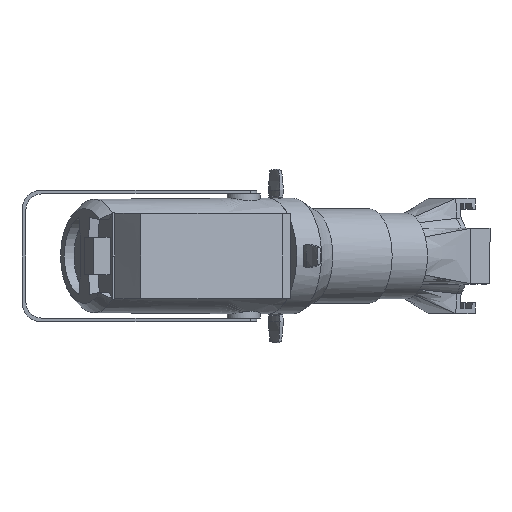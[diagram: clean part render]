
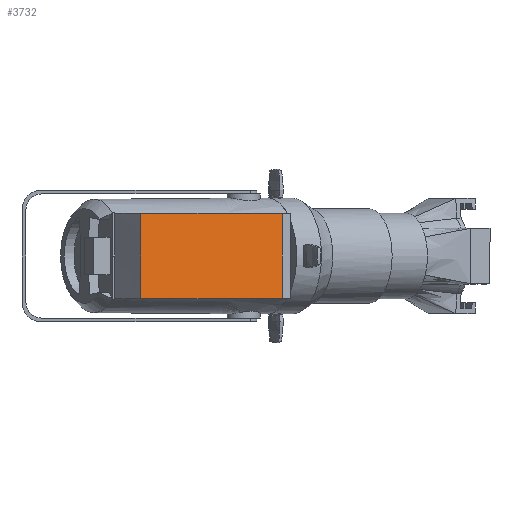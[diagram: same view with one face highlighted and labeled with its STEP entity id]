
A CAD part, front view. The second image highlights one B-rep face of the part: STEP entity #3732.
In plain terms, the highlighted planar face has unit normal (0.485, -0.875, 0) as drawn and (1, -0.018, 0) by its records, which use the part's own axes.
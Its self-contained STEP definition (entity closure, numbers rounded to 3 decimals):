
#172=B_SPLINE_CURVE_WITH_KNOTS('',3,(#14126,#14127,#14128,#14129,#14130,
#14131,#14132,#14133,#14134,#14135,#14136,#14137,#14138,#14139),
 .UNSPECIFIED.,.F.,.F.,(4,2,2,2,2,2,4),(-29.021,-28.885,
-26.698,-22.323,-13.574,-7.741,
-4.509),.UNSPECIFIED.);
#181=B_SPLINE_CURVE_WITH_KNOTS('',3,(#17413,#17414,#17415,#17416,#17417,
#17418,#17419,#17420,#17421,#17422,#17423,#17424,#17425,#17426),
 .UNSPECIFIED.,.F.,.F.,(4,2,2,2,2,2,4),(-29.021,-28.885,
-26.698,-22.323,-13.574,-7.741,
-4.509),.UNSPECIFIED.);
#183=B_SPLINE_CURVE_WITH_KNOTS('',3,(#25789,#25790,#25791,#25792,#25793,
#25794,#25795,#25796,#25797,#25798,#25799,#25800,#25801,#25802,#25803,#25804),
 .UNSPECIFIED.,.F.,.F.,(4,2,2,2,2,2,2,4),(0.,0.769,
4.613,12.305,17.432,28.26,33.675,
34.758),.UNSPECIFIED.);
#184=B_SPLINE_CURVE_WITH_KNOTS('',3,(#26894,#26895,#26896,#26897,#26898,
#26899),.UNSPECIFIED.,.F.,.F.,(4,2,4),(0.,3.44,
12.76),.UNSPECIFIED.);
#373=PLANE('',#4104);
#573=FACE_OUTER_BOUND('',#810,.T.);
#810=EDGE_LOOP('',(#3484,#3485,#3486,#3487));
#1849=VERTEX_POINT('',#14104);
#1850=VERTEX_POINT('',#14125);
#1862=VERTEX_POINT('',#17372);
#1864=VERTEX_POINT('',#17406);
#2376=EDGE_CURVE('',#1849,#1850,#172,.T.);
#2401=EDGE_CURVE('',#1862,#1864,#181,.T.);
#2404=EDGE_CURVE('',#1862,#1849,#183,.F.);
#2405=EDGE_CURVE('',#1864,#1850,#184,.F.);
#3484=ORIENTED_EDGE('',*,*,#2404,.F.);
#3485=ORIENTED_EDGE('',*,*,#2401,.T.);
#3486=ORIENTED_EDGE('',*,*,#2405,.T.);
#3487=ORIENTED_EDGE('',*,*,#2376,.F.);
#3732=ADVANCED_FACE('',(#573),#373,.T.);
#4104=AXIS2_PLACEMENT_3D('',#28673,#5076,#5077);
#5076=DIRECTION('center_axis',(1.,-0.018,0.));
#5077=DIRECTION('ref_axis',(0.,0.,-1.));
#14104=CARTESIAN_POINT('',(116.538,-199.006,63.872));
#14125=CARTESIAN_POINT('',(120.871,46.083,63.802));
#14126=CARTESIAN_POINT('Ctrl Pts',(116.538,-199.006,63.872));
#14127=CARTESIAN_POINT('Ctrl Pts',(116.546,-198.552,63.872));
#14128=CARTESIAN_POINT('Ctrl Pts',(116.554,-198.099,63.871));
#14129=CARTESIAN_POINT('Ctrl Pts',(116.691,-190.355,63.869));
#14130=CARTESIAN_POINT('Ctrl Pts',(116.82,-183.065,63.867));
#14131=CARTESIAN_POINT('Ctrl Pts',(117.207,-161.195,63.861));
#14132=CARTESIAN_POINT('Ctrl Pts',(117.464,-146.615,63.857));
#14133=CARTESIAN_POINT('Ctrl Pts',(118.238,-102.876,63.844));
#14134=CARTESIAN_POINT('Ctrl Pts',(118.753,-73.716,63.836));
#14135=CARTESIAN_POINT('Ctrl Pts',(119.612,-25.116,63.822));
#14136=CARTESIAN_POINT('Ctrl Pts',(119.956,-5.676,63.817));
#14137=CARTESIAN_POINT('Ctrl Pts',(120.49,24.536,63.808));
#14138=CARTESIAN_POINT('Ctrl Pts',(120.681,35.31,63.805));
#14139=CARTESIAN_POINT('Ctrl Pts',(120.871,46.083,63.802));
#17372=CARTESIAN_POINT('',(116.538,-199.006,-63.872));
#17406=CARTESIAN_POINT('',(120.871,46.083,-63.802));
#17413=CARTESIAN_POINT('Ctrl Pts',(116.538,-199.006,-63.872));
#17414=CARTESIAN_POINT('Ctrl Pts',(116.546,-198.552,-63.872));
#17415=CARTESIAN_POINT('Ctrl Pts',(116.554,-198.099,-63.871));
#17416=CARTESIAN_POINT('Ctrl Pts',(116.691,-190.355,-63.869));
#17417=CARTESIAN_POINT('Ctrl Pts',(116.82,-183.065,-63.867));
#17418=CARTESIAN_POINT('Ctrl Pts',(117.207,-161.195,-63.861));
#17419=CARTESIAN_POINT('Ctrl Pts',(117.464,-146.615,-63.857));
#17420=CARTESIAN_POINT('Ctrl Pts',(118.238,-102.876,-63.844));
#17421=CARTESIAN_POINT('Ctrl Pts',(118.753,-73.716,-63.836));
#17422=CARTESIAN_POINT('Ctrl Pts',(119.612,-25.116,-63.822));
#17423=CARTESIAN_POINT('Ctrl Pts',(119.956,-5.676,-63.817));
#17424=CARTESIAN_POINT('Ctrl Pts',(120.49,24.536,-63.808));
#17425=CARTESIAN_POINT('Ctrl Pts',(120.681,35.31,-63.805));
#17426=CARTESIAN_POINT('Ctrl Pts',(120.871,46.083,-63.802));
#25789=CARTESIAN_POINT('Ctrl Pts',(116.538,-199.006,63.872));
#25790=CARTESIAN_POINT('Ctrl Pts',(116.538,-199.005,61.308));
#25791=CARTESIAN_POINT('Ctrl Pts',(116.538,-199.006,52.999));
#25792=CARTESIAN_POINT('Ctrl Pts',(116.538,-199.005,48.34));
#25793=CARTESIAN_POINT('Ctrl Pts',(116.538,-199.006,44.458));
#25794=CARTESIAN_POINT('Ctrl Pts',(116.538,-199.006,32.809));
#25795=CARTESIAN_POINT('Ctrl Pts',(116.538,-199.006,25.042));
#25796=CARTESIAN_POINT('Ctrl Pts',(116.538,-199.006,12.098));
#25797=CARTESIAN_POINT('Ctrl Pts',(116.538,-199.006,6.92));
#25798=CARTESIAN_POINT('Ctrl Pts',(116.538,-199.006,-9.192));
#25799=CARTESIAN_POINT('Ctrl Pts',(116.538,-199.006,-20.126));
#25800=CARTESIAN_POINT('Ctrl Pts',(116.538,-199.006,-36.53));
#25801=CARTESIAN_POINT('Ctrl Pts',(116.538,-199.006,-41.999));
#25802=CARTESIAN_POINT('Ctrl Pts',(116.538,-199.006,-48.562));
#25803=CARTESIAN_POINT('Ctrl Pts',(116.538,-199.005,-60.887));
#25804=CARTESIAN_POINT('Ctrl Pts',(116.538,-199.006,-63.872));
#26894=CARTESIAN_POINT('Ctrl Pts',(120.871,46.083,63.802));
#26895=CARTESIAN_POINT('Ctrl Pts',(120.871,46.082,52.335));
#26896=CARTESIAN_POINT('Ctrl Pts',(120.871,46.083,40.868));
#26897=CARTESIAN_POINT('Ctrl Pts',(120.871,46.083,-1.667));
#26898=CARTESIAN_POINT('Ctrl Pts',(120.871,46.083,-32.734));
#26899=CARTESIAN_POINT('Ctrl Pts',(120.871,46.083,-63.802));
#28673=CARTESIAN_POINT('Origin',(118.704,-76.484,0.));
